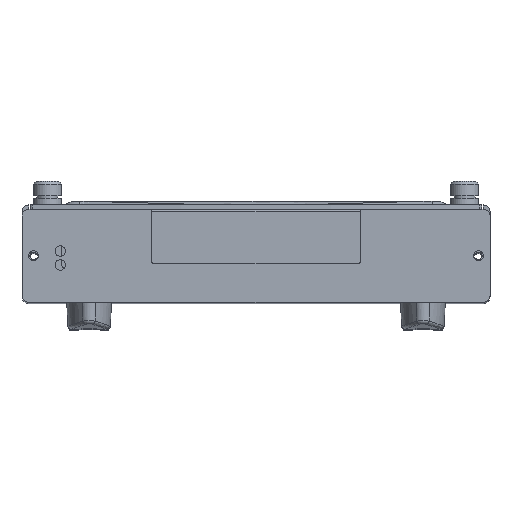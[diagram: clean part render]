
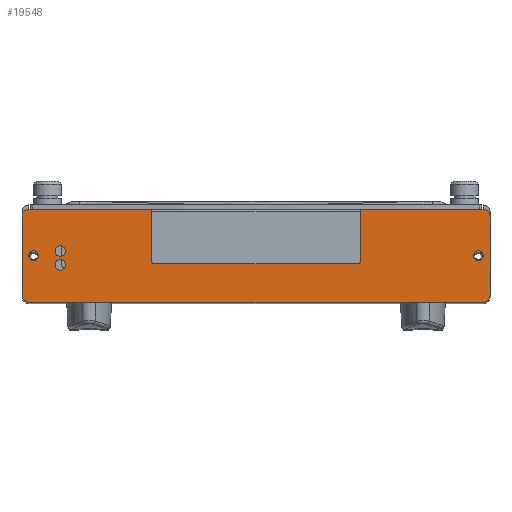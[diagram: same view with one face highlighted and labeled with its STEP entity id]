
A CAD part, top view. The second image highlights one B-rep face of the part: STEP entity #19548.
In plain terms, the highlighted planar face has unit normal (0, 0, 1).
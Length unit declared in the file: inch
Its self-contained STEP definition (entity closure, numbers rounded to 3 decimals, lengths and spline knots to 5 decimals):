
#44=CARTESIAN_POINT('',(-3.265,1.24,10.28));
#45=DIRECTION('',(0.,0.,1.));
#46=DIRECTION('',(0.,1.,0.));
#47=AXIS2_PLACEMENT_3D('',#44,#45,#46);
#630=DIRECTION('',(-1.,0.,0.));
#631=VECTOR('',#630,0.03607);
#632=CARTESIAN_POINT('',(3.265,1.34,10.28));
#633=LINE('',#632,#631);
#634=DIRECTION('',(0.,1.,0.));
#635=VECTOR('',#634,1.14);
#636=CARTESIAN_POINT('',(3.365,0.1,10.28));
#637=LINE('',#636,#635);
#638=DIRECTION('',(1.,0.,0.));
#639=VECTOR('',#638,6.53);
#640=CARTESIAN_POINT('',(-3.265,0.,10.28));
#641=LINE('',#640,#639);
#642=DIRECTION('',(0.,-1.,0.));
#643=VECTOR('',#642,1.14);
#644=CARTESIAN_POINT('',(-3.365,1.24,10.28));
#645=LINE('',#644,#643);
#646=DIRECTION('',(-1.,0.,0.));
#647=VECTOR('',#646,0.03607);
#648=CARTESIAN_POINT('',(-3.22893,1.34,10.28));
#649=LINE('',#648,#647);
#650=DIRECTION('',(-1.,0.,0.));
#651=VECTOR('',#650,0.63478);
#652=CARTESIAN_POINT('',(-2.59415,1.34,10.28));
#653=LINE('',#652,#651);
#654=DIRECTION('',(-1.,0.,0.));
#655=VECTOR('',#654,1.06415);
#656=CARTESIAN_POINT('',(-1.53,1.34,10.28));
#657=LINE('',#656,#655);
#658=DIRECTION('',(0.,-1.,0.));
#659=VECTOR('',#658,0.725);
#660=CARTESIAN_POINT('',(-1.5,1.31,10.28));
#661=LINE('',#660,#659);
#662=DIRECTION('',(-1.,0.,0.));
#663=VECTOR('',#662,2.94);
#664=CARTESIAN_POINT('',(1.47,0.555,10.28));
#665=LINE('',#664,#663);
#666=DIRECTION('',(0.,-1.,0.));
#667=VECTOR('',#666,0.725);
#668=CARTESIAN_POINT('',(1.5,1.31,10.28));
#669=LINE('',#668,#667);
#670=DIRECTION('',(-1.,0.,0.));
#671=VECTOR('',#670,1.06415);
#672=CARTESIAN_POINT('',(2.59415,1.34,10.28));
#673=LINE('',#672,#671);
#674=DIRECTION('',(-1.,0.,0.));
#675=VECTOR('',#674,0.63478);
#676=CARTESIAN_POINT('',(3.22893,1.34,10.28));
#677=LINE('',#676,#675);
#678=CARTESIAN_POINT('',(-2.815,0.737,10.28));
#679=DIRECTION('',(0.,0.,1.));
#680=DIRECTION('',(-1.,0.,0.));
#681=AXIS2_PLACEMENT_3D('',#678,#679,#680);
#683=CARTESIAN_POINT('',(-2.815,0.737,10.28));
#684=DIRECTION('',(0.,0.,1.));
#685=DIRECTION('',(1.,0.,0.));
#686=AXIS2_PLACEMENT_3D('',#683,#684,#685);
#688=CARTESIAN_POINT('',(-2.815,0.537,10.28));
#689=DIRECTION('',(0.,0.,1.));
#690=DIRECTION('',(-1.,0.,0.));
#691=AXIS2_PLACEMENT_3D('',#688,#689,#690);
#693=CARTESIAN_POINT('',(-2.815,0.537,10.28));
#694=DIRECTION('',(0.,0.,1.));
#695=DIRECTION('',(1.,0.,0.));
#696=AXIS2_PLACEMENT_3D('',#693,#694,#695);
#698=CARTESIAN_POINT('',(3.2,0.67,10.28));
#699=DIRECTION('',(0.,0.,1.));
#700=DIRECTION('',(1.,0.,0.));
#701=AXIS2_PLACEMENT_3D('',#698,#699,#700);
#703=CARTESIAN_POINT('',(3.2,0.67,10.28));
#704=DIRECTION('',(0.,0.,1.));
#705=DIRECTION('',(-1.,0.,0.));
#706=AXIS2_PLACEMENT_3D('',#703,#704,#705);
#708=CARTESIAN_POINT('',(-3.2,0.67,10.28));
#709=DIRECTION('',(0.,0.,1.));
#710=DIRECTION('',(1.,0.,0.));
#711=AXIS2_PLACEMENT_3D('',#708,#709,#710);
#713=CARTESIAN_POINT('',(-3.2,0.67,10.28));
#714=DIRECTION('',(0.,0.,1.));
#715=DIRECTION('',(-1.,0.,0.));
#716=AXIS2_PLACEMENT_3D('',#713,#714,#715);
#810=CARTESIAN_POINT('',(1.53,1.31,10.28));
#811=DIRECTION('',(0.,0.,1.));
#812=DIRECTION('',(0.,1.,0.));
#813=AXIS2_PLACEMENT_3D('',#810,#811,#812);
#819=CARTESIAN_POINT('',(1.47,0.585,10.28));
#820=DIRECTION('',(0.,0.,-1.));
#821=DIRECTION('',(1.,0.,0.));
#822=AXIS2_PLACEMENT_3D('',#819,#820,#821);
#837=CARTESIAN_POINT('',(-1.47,0.585,10.28));
#838=DIRECTION('',(0.,0.,-1.));
#839=DIRECTION('',(0.,-1.,0.));
#840=AXIS2_PLACEMENT_3D('',#837,#838,#839);
#864=CARTESIAN_POINT('',(-1.53,1.31,10.28));
#865=DIRECTION('',(0.,0.,1.));
#866=DIRECTION('',(1.,0.,0.));
#867=AXIS2_PLACEMENT_3D('',#864,#865,#866);
#7022=CARTESIAN_POINT('',(-3.265,0.1,10.28));
#7023=DIRECTION('',(0.,0.,1.));
#7024=DIRECTION('',(-1.,0.,0.));
#7025=AXIS2_PLACEMENT_3D('',#7022,#7023,#7024);
#7530=CARTESIAN_POINT('',(3.265,0.1,10.28));
#7531=DIRECTION('',(0.,0.,1.));
#7532=DIRECTION('',(0.,-1.,0.));
#7533=AXIS2_PLACEMENT_3D('',#7530,#7531,#7532);
#7548=CARTESIAN_POINT('',(3.265,1.24,10.28));
#7549=DIRECTION('',(0.,0.,1.));
#7550=DIRECTION('',(1.,0.,0.));
#7551=AXIS2_PLACEMENT_3D('',#7548,#7549,#7550);
#16275=CARTESIAN_POINT('',(3.27,0.67,10.28));
#16276=CARTESIAN_POINT('',(3.13,0.67,10.28));
#16277=VERTEX_POINT('',#16275);
#16278=VERTEX_POINT('',#16276);
#16279=CARTESIAN_POINT('',(-3.13,0.67,10.28));
#16280=CARTESIAN_POINT('',(-3.27,0.67,10.28));
#16281=VERTEX_POINT('',#16279);
#16282=VERTEX_POINT('',#16280);
#16287=CARTESIAN_POINT('',(3.365,1.24,10.28));
#16288=CARTESIAN_POINT('',(3.265,1.34,10.28));
#16289=VERTEX_POINT('',#16287);
#16290=VERTEX_POINT('',#16288);
#16291=CARTESIAN_POINT('',(3.265,0.,10.28));
#16292=CARTESIAN_POINT('',(3.365,0.1,10.28));
#16293=VERTEX_POINT('',#16291);
#16294=VERTEX_POINT('',#16292);
#16295=CARTESIAN_POINT('',(-3.365,0.1,10.28));
#16296=CARTESIAN_POINT('',(-3.265,0.,10.28));
#16297=VERTEX_POINT('',#16295);
#16298=VERTEX_POINT('',#16296);
#16299=CARTESIAN_POINT('',(-3.265,1.34,10.28));
#16300=CARTESIAN_POINT('',(-3.365,1.24,10.28));
#16301=VERTEX_POINT('',#16299);
#16302=VERTEX_POINT('',#16300);
#16303=CARTESIAN_POINT('',(-2.89,0.737,10.28));
#16304=CARTESIAN_POINT('',(-2.74,0.737,10.28));
#16305=VERTEX_POINT('',#16303);
#16306=VERTEX_POINT('',#16304);
#16307=CARTESIAN_POINT('',(-2.89,0.537,10.28));
#16308=CARTESIAN_POINT('',(-2.74,0.537,10.28));
#16309=VERTEX_POINT('',#16307);
#16310=VERTEX_POINT('',#16308);
#16319=CARTESIAN_POINT('',(-1.47,0.555,10.28));
#16321=VERTEX_POINT('',#16319);
#16323=CARTESIAN_POINT('',(-1.5,0.585,10.28));
#16325=VERTEX_POINT('',#16323);
#16327=CARTESIAN_POINT('',(1.5,0.585,10.28));
#16329=VERTEX_POINT('',#16327);
#16331=CARTESIAN_POINT('',(1.47,0.555,10.28));
#16333=VERTEX_POINT('',#16331);
#16336=CARTESIAN_POINT('',(-1.53,1.34,10.28));
#16338=VERTEX_POINT('',#16336);
#16341=CARTESIAN_POINT('',(-1.5,1.31,10.28));
#16342=VERTEX_POINT('',#16341);
#16344=CARTESIAN_POINT('',(1.5,1.31,10.28));
#16346=VERTEX_POINT('',#16344);
#16349=CARTESIAN_POINT('',(1.53,1.34,10.28));
#16350=VERTEX_POINT('',#16349);
#18610=CARTESIAN_POINT('',(-3.22893,1.34,10.28));
#18611=VERTEX_POINT('',#18610);
#18612=CARTESIAN_POINT('',(3.22893,1.34,10.28));
#18613=VERTEX_POINT('',#18612);
#18615=CARTESIAN_POINT('',(-2.59415,1.34,10.28));
#18617=VERTEX_POINT('',#18615);
#18618=CARTESIAN_POINT('',(2.59415,1.34,10.28));
#18620=VERTEX_POINT('',#18618);
#19482=CARTESIAN_POINT('',(0.,0.67,10.28));
#19483=DIRECTION('',(0.,0.,1.));
#19484=DIRECTION('',(1.,0.,0.));
#19485=AXIS2_PLACEMENT_3D('',#19482,#19483,#19484);
#19486=PLANE('',#19485);
#19488=ORIENTED_EDGE('',*,*,#19487,.F.);
#19490=ORIENTED_EDGE('',*,*,#19489,.F.);
#19492=ORIENTED_EDGE('',*,*,#19491,.F.);
#19494=ORIENTED_EDGE('',*,*,#19493,.F.);
#19496=ORIENTED_EDGE('',*,*,#19495,.F.);
#19498=ORIENTED_EDGE('',*,*,#19497,.F.);
#19499=ORIENTED_EDGE('',*,*,#18762,.F.);
#19500=ORIENTED_EDGE('',*,*,#18798,.F.);
#19501=ORIENTED_EDGE('',*,*,#18815,.F.);
#19503=ORIENTED_EDGE('',*,*,#19502,.F.);
#19505=ORIENTED_EDGE('',*,*,#19504,.F.);
#19507=ORIENTED_EDGE('',*,*,#19506,.F.);
#19509=ORIENTED_EDGE('',*,*,#19508,.T.);
#19511=ORIENTED_EDGE('',*,*,#19510,.F.);
#19513=ORIENTED_EDGE('',*,*,#19512,.F.);
#19515=ORIENTED_EDGE('',*,*,#19514,.F.);
#19517=ORIENTED_EDGE('',*,*,#19516,.F.);
#19519=ORIENTED_EDGE('',*,*,#19518,.F.);
#19521=ORIENTED_EDGE('',*,*,#19520,.F.);
#19523=ORIENTED_EDGE('',*,*,#19522,.F.);
#19524=EDGE_LOOP('',(#19488,#19490,#19492,#19494,#19496,#19498,#19499,#19500,
#19501,#19503,#19505,#19507,#19509,#19511,#19513,#19515,#19517,#19519,#19521,
#19523));
#19525=FACE_OUTER_BOUND('',#19524,.F.);
#19527=ORIENTED_EDGE('',*,*,#19526,.T.);
#19529=ORIENTED_EDGE('',*,*,#19528,.T.);
#19530=EDGE_LOOP('',(#19527,#19529));
#19531=FACE_BOUND('',#19530,.F.);
#19533=ORIENTED_EDGE('',*,*,#19532,.T.);
#19535=ORIENTED_EDGE('',*,*,#19534,.T.);
#19536=EDGE_LOOP('',(#19533,#19535));
#19537=FACE_BOUND('',#19536,.F.);
#19538=ORIENTED_EDGE('',*,*,#19461,.T.);
#19539=ORIENTED_EDGE('',*,*,#19475,.T.);
#19540=EDGE_LOOP('',(#19538,#19539));
#19541=FACE_BOUND('',#19540,.F.);
#19543=ORIENTED_EDGE('',*,*,#19542,.T.);
#19545=ORIENTED_EDGE('',*,*,#19544,.T.);
#19546=EDGE_LOOP('',(#19543,#19545));
#19547=FACE_BOUND('',#19546,.F.);
#19548=ADVANCED_FACE('',(#19525,#19531,#19537,#19541,#19547),#19486,.T.);
#48=CIRCLE('',#47,0.1);
#682=CIRCLE('',#681,0.075);
#687=CIRCLE('',#686,0.075);
#692=CIRCLE('',#691,0.075);
#697=CIRCLE('',#696,0.075);
#702=CIRCLE('',#701,0.07);
#707=CIRCLE('',#706,0.07);
#712=CIRCLE('',#711,0.07);
#717=CIRCLE('',#716,0.07);
#814=CIRCLE('',#813,0.03);
#823=CIRCLE('',#822,0.03);
#841=CIRCLE('',#840,0.03);
#868=CIRCLE('',#867,0.03);
#7026=CIRCLE('',#7025,0.1);
#7534=CIRCLE('',#7533,0.1);
#7552=CIRCLE('',#7551,0.1);
#18762=EDGE_CURVE('',#16302,#16297,#645,.T.);
#18798=EDGE_CURVE('',#16301,#16302,#48,.T.);
#18815=EDGE_CURVE('',#18611,#16301,#649,.T.);
#19461=EDGE_CURVE('',#16277,#16278,#702,.T.);
#19475=EDGE_CURVE('',#16278,#16277,#707,.T.);
#19487=EDGE_CURVE('',#16290,#18613,#633,.T.);
#19489=EDGE_CURVE('',#16289,#16290,#7552,.T.);
#19491=EDGE_CURVE('',#16294,#16289,#637,.T.);
#19493=EDGE_CURVE('',#16293,#16294,#7534,.T.);
#19495=EDGE_CURVE('',#16298,#16293,#641,.T.);
#19497=EDGE_CURVE('',#16297,#16298,#7026,.T.);
#19502=EDGE_CURVE('',#18617,#18611,#653,.T.);
#19504=EDGE_CURVE('',#16338,#18617,#657,.T.);
#19506=EDGE_CURVE('',#16342,#16338,#868,.T.);
#19508=EDGE_CURVE('',#16342,#16325,#661,.T.);
#19510=EDGE_CURVE('',#16321,#16325,#841,.T.);
#19512=EDGE_CURVE('',#16333,#16321,#665,.T.);
#19514=EDGE_CURVE('',#16329,#16333,#823,.T.);
#19516=EDGE_CURVE('',#16346,#16329,#669,.T.);
#19518=EDGE_CURVE('',#16350,#16346,#814,.T.);
#19520=EDGE_CURVE('',#18620,#16350,#673,.T.);
#19522=EDGE_CURVE('',#18613,#18620,#677,.T.);
#19526=EDGE_CURVE('',#16305,#16306,#682,.T.);
#19528=EDGE_CURVE('',#16306,#16305,#687,.T.);
#19532=EDGE_CURVE('',#16309,#16310,#692,.T.);
#19534=EDGE_CURVE('',#16310,#16309,#697,.T.);
#19542=EDGE_CURVE('',#16281,#16282,#712,.T.);
#19544=EDGE_CURVE('',#16282,#16281,#717,.T.);
